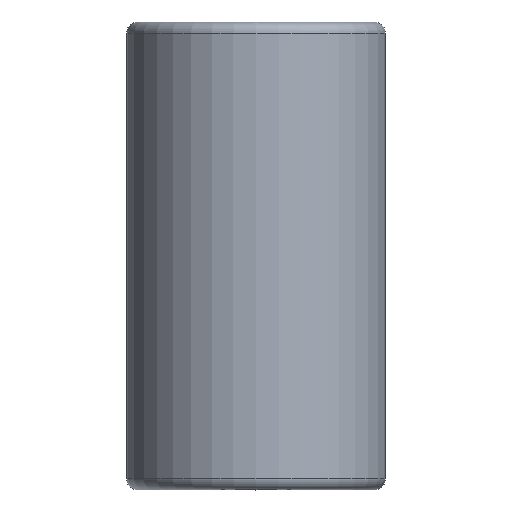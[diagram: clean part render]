
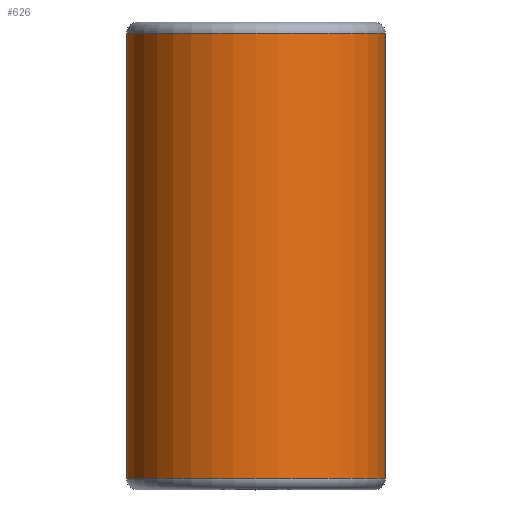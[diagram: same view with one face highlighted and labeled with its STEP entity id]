
A CAD part, top view. The second image highlights one B-rep face of the part: STEP entity #626.
In plain terms, the highlighted cylindrical face has radius 23 mm (diameter 46 mm), a full revolution.
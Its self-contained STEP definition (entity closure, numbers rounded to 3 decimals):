
#32=FACE_BOUND('',#102,.T.);
#58=FACE_OUTER_BOUND('',#101,.T.);
#101=EDGE_LOOP('',(#459,#460,#461,#462,#463,#464));
#102=EDGE_LOOP('',(#465));
#143=CIRCLE('',#688,23.);
#146=CIRCLE('',#691,23.);
#147=CIRCLE('',#693,23.);
#148=CIRCLE('',#694,23.);
#198=B_SPLINE_CURVE_WITH_KNOTS('',3,(#1776,#1777,#1778,#1779,#1780,#1781,
#1782,#1783,#1784,#1785,#1786,#1787,#1788,#1789,#1790,#1791,#1792,#1793,
#1794,#1795,#1796,#1797,#1798,#1799,#1800,#1801,#1802,#1803,#1804,#1805,
#1806,#1807,#1808,#1809,#1810,#1811),.UNSPECIFIED.,.T.,.F.,(4,1,1,1,1,1,
1,1,1,1,1,1,1,1,1,1,1,1,1,1,1,1,1,1,1,1,1,1,1,1,1,1,1,4),(-7.646,
-7.428,-7.209,-7.155,-6.991,
-6.772,-6.481,-6.263,-6.19,
-6.044,-5.898,-5.68,-5.607,
-5.462,-5.316,-5.025,-4.733,
-4.551,-4.442,-4.151,-3.859,
-3.768,-3.714,-3.568,-3.277,
-3.168,-3.004,-2.84,-2.622,
-2.403,-2.185,-1.966,-1.748,
-1.529),.UNSPECIFIED.);
#221=LINE('',#1773,#243);
#243=VECTOR('',#806,23.);
#285=VERTEX_POINT('',#1762);
#286=VERTEX_POINT('',#1763);
#288=VERTEX_POINT('',#1770);
#289=VERTEX_POINT('',#1771);
#290=VERTEX_POINT('',#1775);
#354=EDGE_CURVE('',#285,#286,#143,.T.);
#357=EDGE_CURVE('',#286,#285,#146,.T.);
#358=EDGE_CURVE('',#288,#289,#147,.T.);
#359=EDGE_CURVE('',#288,#285,#221,.T.);
#360=EDGE_CURVE('',#289,#288,#148,.T.);
#361=EDGE_CURVE('',#290,#290,#198,.T.);
#459=ORIENTED_EDGE('',*,*,#358,.F.);
#460=ORIENTED_EDGE('',*,*,#359,.T.);
#461=ORIENTED_EDGE('',*,*,#357,.F.);
#462=ORIENTED_EDGE('',*,*,#354,.F.);
#463=ORIENTED_EDGE('',*,*,#359,.F.);
#464=ORIENTED_EDGE('',*,*,#360,.F.);
#465=ORIENTED_EDGE('',*,*,#361,.F.);
#602=CYLINDRICAL_SURFACE('',#692,23.);
#626=ADVANCED_FACE('',(#58,#32),#602,.T.);
#688=AXIS2_PLACEMENT_3D('',#1764,#794,#795);
#691=AXIS2_PLACEMENT_3D('',#1768,#800,#801);
#692=AXIS2_PLACEMENT_3D('',#1769,#802,#803);
#693=AXIS2_PLACEMENT_3D('',#1772,#804,#805);
#694=AXIS2_PLACEMENT_3D('',#1774,#807,#808);
#794=DIRECTION('center_axis',(0.,-1.,0.));
#795=DIRECTION('ref_axis',(1.,0.,0.));
#800=DIRECTION('center_axis',(0.,-1.,0.));
#801=DIRECTION('ref_axis',(1.,0.,0.));
#802=DIRECTION('center_axis',(0.,1.,0.));
#803=DIRECTION('ref_axis',(1.,0.,0.));
#804=DIRECTION('center_axis',(0.,1.,0.));
#805=DIRECTION('ref_axis',(1.,0.,0.));
#806=DIRECTION('',(0.,-1.,0.));
#807=DIRECTION('center_axis',(0.,1.,0.));
#808=DIRECTION('ref_axis',(1.,0.,0.));
#1762=CARTESIAN_POINT('',(-23.,2.,0.));
#1763=CARTESIAN_POINT('',(0.,2.,-23.));
#1764=CARTESIAN_POINT('Origin',(0.,2.,0.));
#1768=CARTESIAN_POINT('Origin',(0.,2.,0.));
#1769=CARTESIAN_POINT('Origin',(0.,0.,0.));
#1770=CARTESIAN_POINT('',(-23.,81.,0.));
#1771=CARTESIAN_POINT('',(0.,81.,-23.));
#1772=CARTESIAN_POINT('Origin',(0.,81.,0.));
#1773=CARTESIAN_POINT('',(-23.,0.,0.));
#1774=CARTESIAN_POINT('Origin',(0.,81.,0.));
#1775=CARTESIAN_POINT('',(0.,57.,-23.));
#1776=CARTESIAN_POINT('Ctrl Pts',(0.,57.,-23.));
#1777=CARTESIAN_POINT('Ctrl Pts',(1.092,57.,-23.));
#1778=CARTESIAN_POINT('Ctrl Pts',(3.353,56.756,-22.839));
#1779=CARTESIAN_POINT('Ctrl Pts',(5.75,55.897,-22.3));
#1780=CARTESIAN_POINT('Ctrl Pts',(7.68,54.867,-21.699));
#1781=CARTESIAN_POINT('Ctrl Pts',(9.436,53.619,-21.016));
#1782=CARTESIAN_POINT('Ctrl Pts',(11.561,51.363,-19.937));
#1783=CARTESIAN_POINT('Ctrl Pts',(13.323,48.089,-18.773));
#1784=CARTESIAN_POINT('Ctrl Pts',(14.029,45.06,-18.226));
#1785=CARTESIAN_POINT('Ctrl Pts',(14.253,42.752,-18.052));
#1786=CARTESIAN_POINT('Ctrl Pts',(14.252,40.872,-18.052));
#1787=CARTESIAN_POINT('Ctrl Pts',(13.906,38.165,-18.324));
#1788=CARTESIAN_POINT('Ctrl Pts',(13.216,35.964,-18.836));
#1789=CARTESIAN_POINT('Ctrl Pts',(12.258,33.974,-19.469));
#1790=CARTESIAN_POINT('Ctrl Pts',(11.286,32.446,-20.058));
#1791=CARTESIAN_POINT('Ctrl Pts',(9.522,30.42,-20.981));
#1792=CARTESIAN_POINT('Ctrl Pts',(6.631,28.299,-22.161));
#1793=CARTESIAN_POINT('Ctrl Pts',(2.764,27.102,-22.934));
#1794=CARTESIAN_POINT('Ctrl Pts',(-0.18,26.947,-23.034));
#1795=CARTESIAN_POINT('Ctrl Pts',(-3.137,27.215,-22.861));
#1796=CARTESIAN_POINT('Ctrl Pts',(-6.622,28.298,-22.161));
#1797=CARTESIAN_POINT('Ctrl Pts',(-9.311,30.265,-21.067));
#1798=CARTESIAN_POINT('Ctrl Pts',(-10.674,31.745,-20.378));
#1799=CARTESIAN_POINT('Ctrl Pts',(-11.536,32.835,-19.907));
#1800=CARTESIAN_POINT('Ctrl Pts',(-12.832,34.881,-19.12));
#1801=CARTESIAN_POINT('Ctrl Pts',(-13.793,37.593,-18.41));
#1802=CARTESIAN_POINT('Ctrl Pts',(-14.226,40.584,-18.073));
#1803=CARTESIAN_POINT('Ctrl Pts',(-14.283,42.842,-18.028));
#1804=CARTESIAN_POINT('Ctrl Pts',(-13.932,45.74,-18.304));
#1805=CARTESIAN_POINT('Ctrl Pts',(-12.992,48.769,-19.004));
#1806=CARTESIAN_POINT('Ctrl Pts',(-11.328,51.605,-20.054));
#1807=CARTESIAN_POINT('Ctrl Pts',(-9.265,53.806,-21.104));
#1808=CARTESIAN_POINT('Ctrl Pts',(-6.548,55.619,-22.123));
#1809=CARTESIAN_POINT('Ctrl Pts',(-3.354,56.752,-22.837));
#1810=CARTESIAN_POINT('Ctrl Pts',(-1.092,57.,-23.));
#1811=CARTESIAN_POINT('Ctrl Pts',(0.,57.,-23.));
